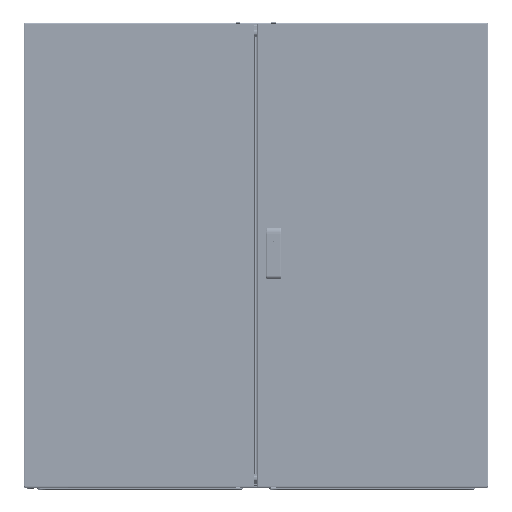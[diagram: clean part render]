
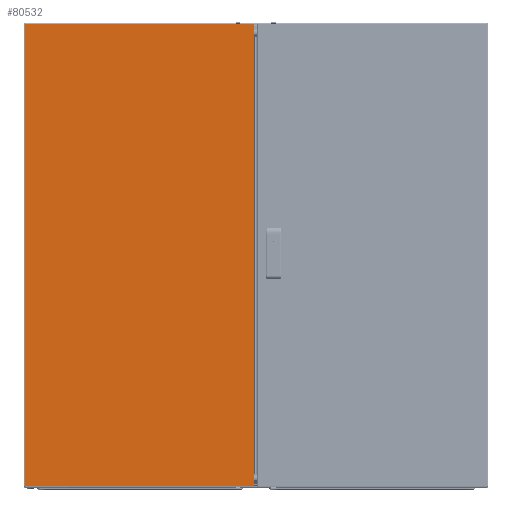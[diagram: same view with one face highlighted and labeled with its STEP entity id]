
A CAD part, top view. The second image highlights one B-rep face of the part: STEP entity #80532.
In plain terms, the highlighted planar face has unit normal (0, 0, 1) as drawn and (0, 0, -1) by its records, which use the part's own axes.
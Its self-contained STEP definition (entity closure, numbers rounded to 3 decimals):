
#5186 = VECTOR ( 'NONE', #58979, 1000. ) ;
#9853 = DIRECTION ( 'NONE',  ( 0., 1., 0. ) ) ;
#10544 = EDGE_CURVE ( 'NONE', #77045, #109308, #57376, .T. ) ;
#15937 = VECTOR ( 'NONE', #47980, 1000. ) ;
#18100 = VECTOR ( 'NONE', #9853, 1000. ) ;
#20167 = ORIENTED_EDGE ( 'NONE', *, *, #128519, .T. ) ;
#26449 = AXIS2_PLACEMENT_3D ( 'NONE', #119839, #115977, #34728 ) ;
#34728 = DIRECTION ( 'NONE',  ( 1., 0., 0. ) ) ;
#38248 = CARTESIAN_POINT ( 'NONE',  ( -246.5, 496.99, 0. ) ) ;
#47980 = DIRECTION ( 'NONE',  ( 0., -1., 0. ) ) ;
#49551 = LINE ( 'NONE', #132836, #5186 ) ;
#54865 = PLANE ( 'NONE',  #26449 ) ;
#57376 = LINE ( 'NONE', #98330, #15937 ) ;
#57916 = ORIENTED_EDGE ( 'NONE', *, *, #10544, .F. ) ;
#58810 = EDGE_CURVE ( 'NONE', #64676, #109308, #49551, .T. ) ;
#58979 = DIRECTION ( 'NONE',  ( -1., 0., 0. ) ) ;
#62142 = CARTESIAN_POINT ( 'NONE',  ( 246.5, 497., 0. ) ) ;
#64676 = VERTEX_POINT ( 'NONE', #72400 ) ;
#69727 = VECTOR ( 'NONE', #129997, 1000. ) ;
#72400 = CARTESIAN_POINT ( 'NONE',  ( 246.5, -496.99, 0. ) ) ;
#75393 = ORIENTED_EDGE ( 'NONE', *, *, #91309, .F. ) ;
#77045 = VERTEX_POINT ( 'NONE', #38248 ) ;
#77564 = CARTESIAN_POINT ( 'NONE',  ( -246.5, 496.99, 0. ) ) ;
#79455 = CARTESIAN_POINT ( 'NONE',  ( 246.5, 496.99, 0. ) ) ;
#80532 = ADVANCED_FACE ( 'NONE', ( #94512 ), #54865, .F. ) ;
#87466 = ORIENTED_EDGE ( 'NONE', *, *, #58810, .T. ) ;
#91309 = EDGE_CURVE ( 'NONE', #64676, #97381, #123967, .T. ) ;
#91718 = CARTESIAN_POINT ( 'NONE',  ( -246.5, -496.99, 0. ) ) ;
#94512 = FACE_OUTER_BOUND ( 'NONE', #128078, .T. ) ;
#97381 = VERTEX_POINT ( 'NONE', #79455 ) ;
#98330 = CARTESIAN_POINT ( 'NONE',  ( -246.5, 497., 0. ) ) ;
#99744 = LINE ( 'NONE', #77564, #69727 ) ;
#109308 = VERTEX_POINT ( 'NONE', #91718 ) ;
#115977 = DIRECTION ( 'NONE',  ( 0., 0., 1. ) ) ;
#119839 = CARTESIAN_POINT ( 'NONE',  ( -246.5, -497., 0. ) ) ;
#123967 = LINE ( 'NONE', #62142, #18100 ) ;
#128078 = EDGE_LOOP ( 'NONE', ( #20167, #75393, #87466, #57916 ) ) ;
#128519 = EDGE_CURVE ( 'NONE', #77045, #97381, #99744, .T. ) ;
#129997 = DIRECTION ( 'NONE',  ( 1., 0., 0. ) ) ;
#132836 = CARTESIAN_POINT ( 'NONE',  ( 246.5, -496.99, 0. ) ) ;
